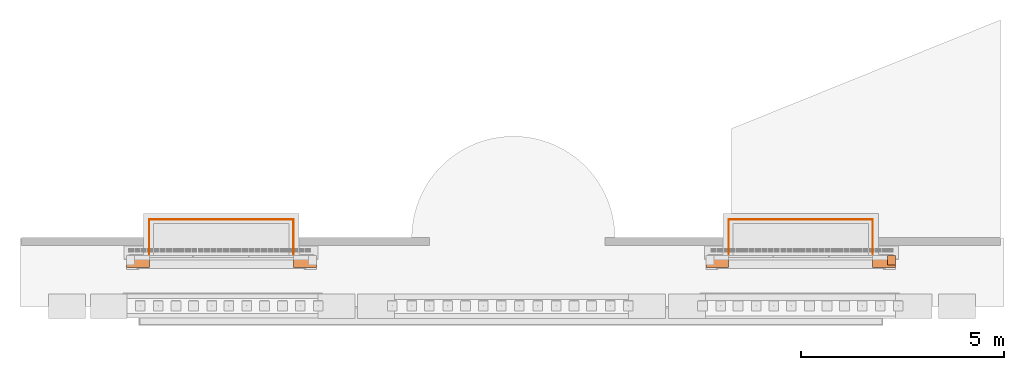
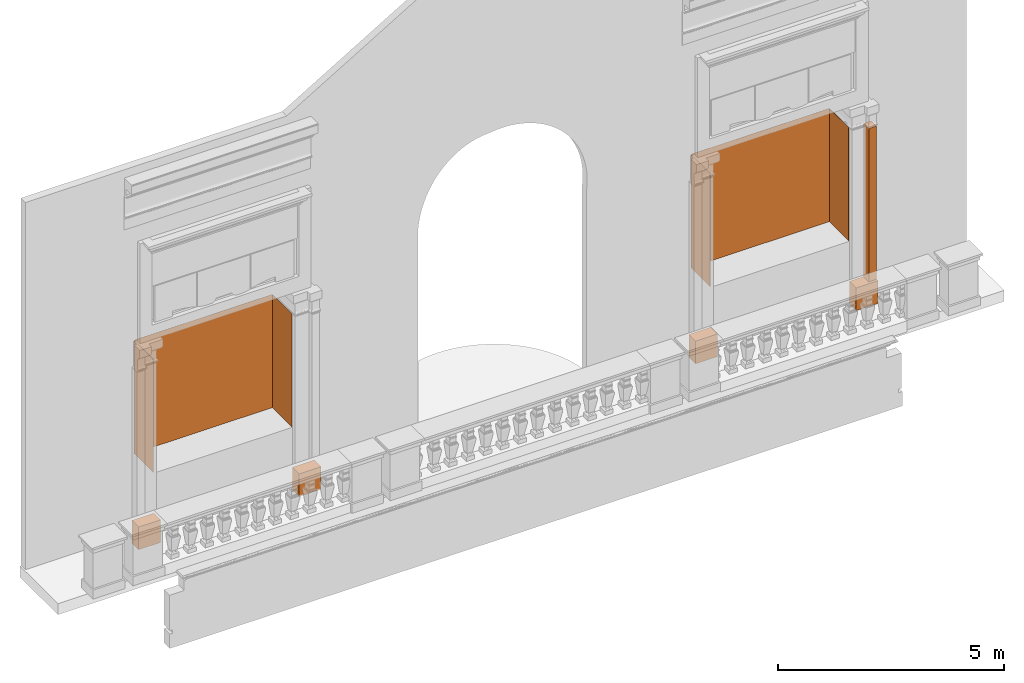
# One storey, part 12 of 14: 7 proxies.
"""IFC2X3 building model written with IfcOpenShell, lengths in metres."""

from ifc_helpers import new_model, entity, si_unit, converted_unit, derived_unit, direction, frame, frame_2d, origin, origin_2d_with_axis, place, context, subcontext, project, spatial, rectangle, extrude, faceted_brep, material, element, save


model = new_model("IFC2X3")

# Units and contexts
model_context = context("Model", 3, precision=1e-05, world=origin(), true_north=direction((6.12303176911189e-17, 1.0)))
body_context = subcontext(model_context, "Body", "Model", "MODEL_VIEW")
ifc_project = project(units=[si_unit("LENGTHUNIT", "METRE"), si_unit("AREAUNIT", "SQUARE_METRE"), si_unit("VOLUMEUNIT", "CUBIC_METRE"), converted_unit("PLANEANGLEUNIT", "DEGREE", entity("IfcRatioMeasure", 0.0174532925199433), si_unit("PLANEANGLEUNIT", "RADIAN"), dimensions=[0, 0, 0, 0, 0, 0, 0]), si_unit("MASSUNIT", "GRAM", prefix="KILO"), derived_unit("MASSDENSITYUNIT", [(si_unit("MASSUNIT", "GRAM", prefix="KILO"), 1), (si_unit("LENGTHUNIT", "METRE"), -3)]), si_unit("TIMEUNIT", "SECOND"), si_unit("FREQUENCYUNIT", "HERTZ"), si_unit("THERMODYNAMICTEMPERATUREUNIT", "DEGREE_CELSIUS"), derived_unit("THERMALTRANSMITTANCEUNIT", [(si_unit("MASSUNIT", "GRAM", prefix="KILO"), 1), (si_unit("THERMODYNAMICTEMPERATUREUNIT", "KELVIN"), -1), (si_unit("TIMEUNIT", "SECOND"), -3)]), derived_unit("VOLUMETRICFLOWRATEUNIT", [(si_unit("LENGTHUNIT", "METRE"), 3), (si_unit("TIMEUNIT", "SECOND"), -1)]), si_unit("ELECTRICCURRENTUNIT", "AMPERE"), si_unit("ELECTRICVOLTAGEUNIT", "VOLT"), si_unit("POWERUNIT", "WATT"), si_unit("FORCEUNIT", "NEWTON", prefix="KILO"), si_unit("ILLUMINANCEUNIT", "LUX"), si_unit("LUMINOUSFLUXUNIT", "LUMEN"), si_unit("LUMINOUSINTENSITYUNIT", "CANDELA"), derived_unit("USERDEFINED", [(si_unit("MASSUNIT", "GRAM", prefix="KILO"), -1), (si_unit("LENGTHUNIT", "METRE"), -2), (si_unit("TIMEUNIT", "SECOND"), 3), (si_unit("LUMINOUSFLUXUNIT", "LUMEN"), 1)]), derived_unit("LINEARVELOCITYUNIT", [(si_unit("LENGTHUNIT", "METRE"), 1), (si_unit("TIMEUNIT", "SECOND"), -1)]), si_unit("PRESSUREUNIT", "PASCAL"), derived_unit("USERDEFINED", [(si_unit("LENGTHUNIT", "METRE"), -2), (si_unit("MASSUNIT", "GRAM", prefix="KILO"), 1), (si_unit("TIMEUNIT", "SECOND"), -2)])], contexts=[model_context])

# Site, building, storey
site_placement = place(None, origin())
site = spatial("IfcSite", under=ifc_project, at=site_placement, Name="Default", CompositionType="ELEMENT")
building_placement = place(site_placement, origin())
building = spatial("IfcBuilding", under=site, at=building_placement, CompositionType="ELEMENT")
storey_placement = place(building_placement, frame((0.0, 0.0, 13.366833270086)))
storey = spatial("IfcBuildingStorey", under=building, at=storey_placement, Name="Livello 2", CompositionType="ELEMENT", Elevation=13.366833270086)

# Proxies
ifc_material_1 = material(Name="Travertino")
for number, where in (
    (1, (-9.50278761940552, 0.725532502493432, -0.0400000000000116)),
    (2, (-5.39648498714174, 0.725532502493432, -0.0400000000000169)),
):
    element("IfcBuildingElementProxy", number, at=place(storey_placement, frame(where)), inside=storey, material=ifc_material_1, Name="Stratigrafia", context=body_context, shape_type="SweptSolid", body=[
        extrude(rectangle(XDim=0.612700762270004, YDim=0.3, at=frame_2d((0.0, 0.0), x_axis=(0.0, 1.0))), frame((0.0, 0.15, 0.306350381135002), z_axis=(1.0, 0.0, 0.0), x_axis=(0.0, 1.0, 0.0)), (0.0, 0.0, 1.0), 0.559999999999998),
    ])
ifc_material_2 = material(Name="Intonaco Liscio")
proxy_1_placement = place(storey_placement, frame((-8.94278761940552, 1.04916137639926, 1.65270076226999)))
element("IfcBuildingElementProxy", 3, at=proxy_1_placement, inside=storey, material=ifc_material_2, Name="Stratigrafia", context=body_context, shape_type="Brep", body=[
    faceted_brep([(3.54630263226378, 0.0, 0.0), (3.54255284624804, 0.0, 0.0), (3.54255284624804, 0.855979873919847, 0.0), (0.00374978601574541, 0.855979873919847, 0.0), (0.00374978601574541, 0.0, 0.0), (0.0, 0.0, 0.0), (0.0, 0.859729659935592, 0.0), (3.54630263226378, 0.859729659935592, 0.0), (3.54630263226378, 0.0, 3.06295671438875), (3.54630263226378, 0.859729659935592, 3.06295671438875), (0.0, 0.859729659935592, 3.06295671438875), (0.0, 0.0, 3.06295671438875), (0.00374978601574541, 0.0, 3.06295671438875), (0.00374978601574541, 0.855979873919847, 3.06295671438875), (3.54255284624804, 0.855979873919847, 3.06295671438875), (3.54255284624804, 0.0, 3.06295671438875)], [[[0, 1, 2, 3, 4, 5, 6, 7]], [[8, 9, 10, 11, 12, 13, 14, 15]], [[1, 0, 8, 15]], [[2, 1, 15, 14]], [[3, 2, 14, 13]], [[4, 3, 13, 12]], [[5, 4, 12, 11]], [[6, 5, 11, 10]], [[7, 6, 10, 9]], [[0, 7, 9, 8]]]),
])
proxy_2_placement = place(storey_placement, frame((8.84884928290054, 0.725532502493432, 0.0)))
element("IfcBuildingElementProxy", 4, at=proxy_2_placement, inside=storey, material=ifc_material_1, Name="Stratigrafia", context=body_context, shape_type="SweptSolid", body=[
    extrude(rectangle(XDim=0.612700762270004, YDim=0.3, at=origin_2d_with_axis()), frame((0.0, 0.15, 0.306350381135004), z_axis=(1.0, 0.0, 0.0), x_axis=(0.0, 0.0, -1.0)), (0.0, 0.0, 1.0), 0.559999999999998),
])
proxy_3_placement = place(storey_placement, frame((9.21198271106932, 0.792024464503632, 0.612700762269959)))
element("IfcBuildingElementProxy", 5, at=proxy_3_placement, inside=storey, material=ifc_material_1, Name="Stratigrafia", context=body_context, shape_type="SweptSolid", body=[
    extrude(rectangle(XDim=4.14295671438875, YDim=0.233508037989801, at=frame_2d((0.0, -6.93889390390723e-17), x_axis=(1.0, 0.0))), frame((0.0, 0.116754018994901, 2.07147835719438), z_axis=(1.0, 0.0, 0.0), x_axis=(0.0, 0.0, -1.0)), (0.0, 0.0, 1.0), 0.19686657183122),
])
proxy_4_placement = place(storey_placement, frame((4.74254665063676, 0.725532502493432, 0.0)))
element("IfcBuildingElementProxy", 6, at=proxy_4_placement, inside=storey, material=ifc_material_1, Name="Stratigrafia", context=body_context, shape_type="SweptSolid", body=[
    extrude(rectangle(XDim=0.612700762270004, YDim=0.3, at=origin_2d_with_axis()), frame((0.0, 0.15, 0.306350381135), z_axis=(1.0, 0.0, 0.0), x_axis=(0.0, 0.0, -1.0)), (0.0, 0.0, 1.0), 0.559999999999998),
])
proxy_5_placement = place(storey_placement, frame((5.30254665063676, 1.04916137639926, 1.69270076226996)))
element("IfcBuildingElementProxy", 7, at=proxy_5_placement, inside=storey, material=ifc_material_2, Name="Stratigrafia", context=body_context, shape_type="Brep", body=[
    faceted_brep([(0.0, 0.0, 0.0), (0.0, 0.859729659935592, 0.0), (3.54630263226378, 0.859729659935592, 0.0), (3.54630263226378, 0.0, 0.0), (3.54255284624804, 0.0, 0.0), (3.54255284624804, 0.855979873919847, 0.0), (0.00374978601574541, 0.855979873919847, 0.0), (0.00374978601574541, 0.0, 0.0), (0.0, 0.0, 3.06295671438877), (0.00374978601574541, 0.0, 3.06295671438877), (0.00374978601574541, 0.855979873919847, 3.06295671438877), (3.54255284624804, 0.855979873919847, 3.06295671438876), (3.54255284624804, 0.0, 3.06295671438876), (3.54630263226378, 0.0, 3.06295671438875), (3.54630263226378, 0.859729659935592, 3.06295671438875), (0.0, 0.859729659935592, 3.06295671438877)], [[[0, 1, 2, 3, 4, 5, 6, 7]], [[8, 9, 10, 11, 12, 13, 14, 15]], [[7, 9, 8, 0]], [[6, 10, 9, 7]], [[5, 11, 10, 6]], [[4, 12, 11, 5]], [[3, 13, 12, 4]], [[2, 14, 13, 3]], [[1, 15, 14, 2]], [[0, 8, 15, 1]]]),
])

save(model, "model.ifc")
